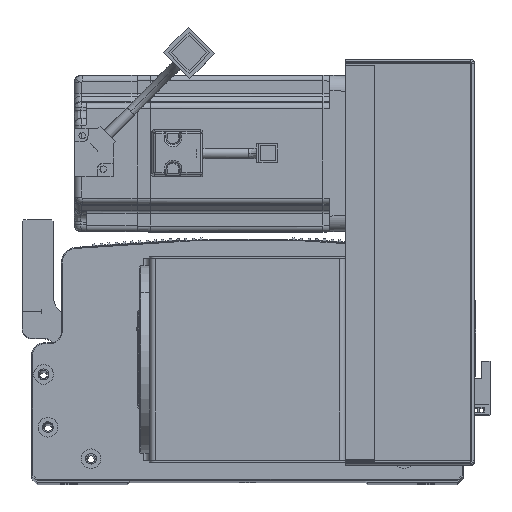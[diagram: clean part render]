
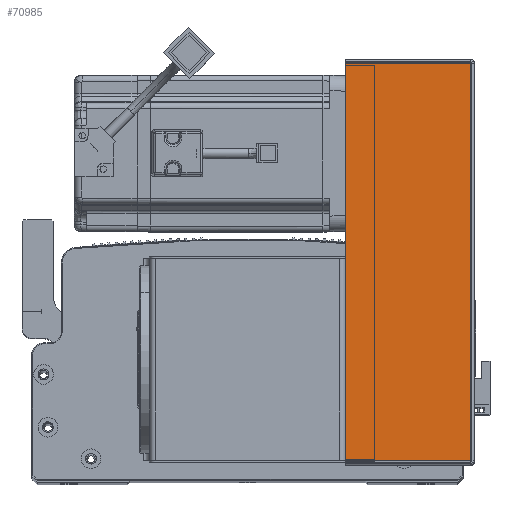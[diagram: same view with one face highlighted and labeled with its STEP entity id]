
A CAD part, top view. The second image highlights one B-rep face of the part: STEP entity #70985.
In plain terms, the highlighted planar face has unit normal (0, 0, 1) as drawn and (0, -1, 0) by its records, which use the part's own axes.
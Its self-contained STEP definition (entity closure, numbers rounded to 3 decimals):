
#835 = DIRECTION ( 'NONE',  ( 0., 1., 0. ) ) ;
#1009 = DIRECTION ( 'NONE',  ( 0., 0., 1. ) ) ;
#3586 = ORIENTED_EDGE ( 'NONE', *, *, #65590, .F. ) ;
#4634 = CARTESIAN_POINT ( 'NONE',  ( 64.5, -1.5, 0. ) ) ;
#5941 = CARTESIAN_POINT ( 'NONE',  ( 64.5, -1.5, -0.707 ) ) ;
#8111 = PLANE ( 'NONE',  #16615 ) ;
#8658 = LINE ( 'NONE', #73209, #49755 ) ;
#9214 = VERTEX_POINT ( 'NONE', #52029 ) ;
#16615 = AXIS2_PLACEMENT_3D ( 'NONE', #45640, #835, #27392 ) ;
#18819 = VERTEX_POINT ( 'NONE', #5941 ) ;
#23056 = VECTOR ( 'NONE', #1009, 1000. ) ;
#24918 = LINE ( 'NONE', #50579, #25955 ) ;
#25955 = VECTOR ( 'NONE', #50047, 1000. ) ;
#27392 = DIRECTION ( 'NONE',  ( -1., 0., 0. ) ) ;
#36832 = VECTOR ( 'NONE', #55890, 1000. ) ;
#37453 = VERTEX_POINT ( 'NONE', #46315 ) ;
#38906 = EDGE_CURVE ( 'NONE', #80509, #18819, #47905, .T. ) ;
#39917 = CARTESIAN_POINT ( 'NONE',  ( 0.737, -1.5, 0. ) ) ;
#42899 = ORIENTED_EDGE ( 'NONE', *, *, #38906, .T. ) ;
#45640 = CARTESIAN_POINT ( 'NONE',  ( 0., -1.5, 0. ) ) ;
#46315 = CARTESIAN_POINT ( 'NONE',  ( 0.737, -1.5, -0.707 ) ) ;
#47905 = LINE ( 'NONE', #4634, #36832 ) ;
#49755 = VECTOR ( 'NONE', #54938, 1000. ) ;
#50047 = DIRECTION ( 'NONE',  ( 1., 0., 0. ) ) ;
#50579 = CARTESIAN_POINT ( 'NONE',  ( 0., -1.5, -203.293 ) ) ;
#51148 = LINE ( 'NONE', #39917, #23056 ) ;
#52029 = CARTESIAN_POINT ( 'NONE',  ( 0.737, -1.5, -203.293 ) ) ;
#54114 = CARTESIAN_POINT ( 'NONE',  ( 64.5, -1.5, -203.293 ) ) ;
#54938 = DIRECTION ( 'NONE',  ( 1., 0., 0. ) ) ;
#55890 = DIRECTION ( 'NONE',  ( 0., 0., 1. ) ) ;
#57548 = ORIENTED_EDGE ( 'NONE', *, *, #59539, .F. ) ;
#59539 = EDGE_CURVE ( 'NONE', #9214, #37453, #51148, .T. ) ;
#65590 = EDGE_CURVE ( 'NONE', #37453, #18819, #8658, .T. ) ;
#70985 = ADVANCED_FACE ( 'NONE', ( #73167 ), #8111, .F. ) ;
#71835 = EDGE_CURVE ( 'NONE', #9214, #80509, #24918, .T. ) ;
#73167 = FACE_OUTER_BOUND ( 'NONE', #73279, .T. ) ;
#73209 = CARTESIAN_POINT ( 'NONE',  ( 0., -1.5, -0.707 ) ) ;
#73279 = EDGE_LOOP ( 'NONE', ( #57548, #76413, #42899, #3586 ) ) ;
#76413 = ORIENTED_EDGE ( 'NONE', *, *, #71835, .T. ) ;
#80509 = VERTEX_POINT ( 'NONE', #54114 ) ;
